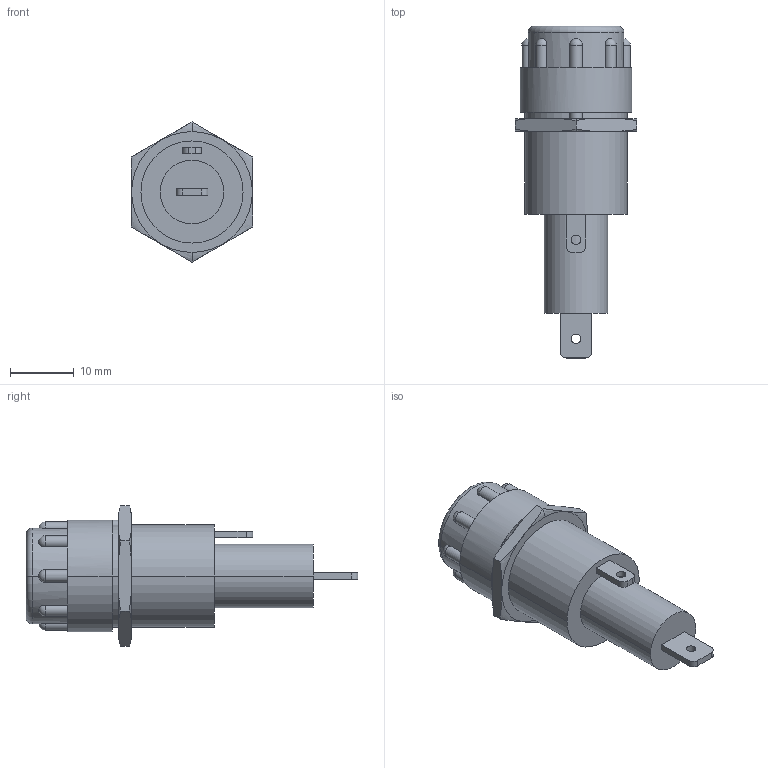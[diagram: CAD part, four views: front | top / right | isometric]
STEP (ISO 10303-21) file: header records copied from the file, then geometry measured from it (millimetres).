
FILE_DESCRIPTION (( 'STEP AP214' ), '1' );
FILE_NAME ('ﾄﾂﾏ4-4ﾂ.STEP', '2013-04-05T05:45:59', ( 'Tester2' ), ( '' ), 'SwSTEP 2.0', 'SolidWorks 2012', '' );
FILE_SCHEMA (( 'AUTOMOTIVE_DESIGN' ));
Length unit declared in the file: millimetre
Products named in the file (1): ﾄﾂﾏ4-4ﾂ
Bounding box: 19 x 52 x 21.94 mm (x, y, z)
Volume: 7581.1 mm3; surface area: 2855 mm2
Topology: 1 solids, 1 shells, 72 faces, 199 edges, 127 vertices
Faces by surface type: cylinder 35, plane 23, sphere 8, torus 6
Entity records: 2801 total; most frequent: CARTESIAN_POINT 673, DIRECTION 399, ORIENTED_EDGE 370, EDGE_CURVE 185, AXIS2_PLACEMENT_3D 163, VERTEX_POINT 121, CIRCLE 90, EDGE_LOOP 82
